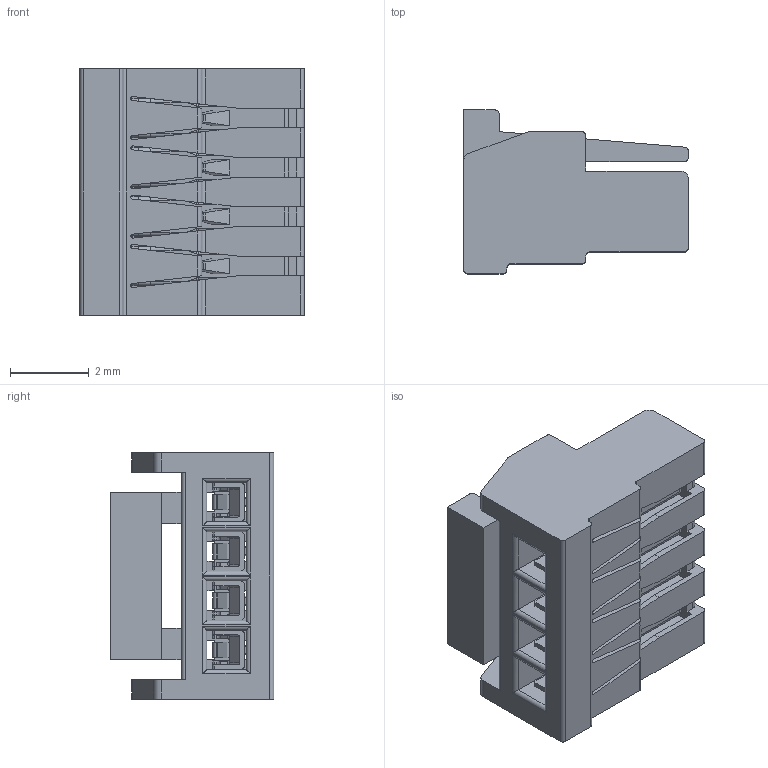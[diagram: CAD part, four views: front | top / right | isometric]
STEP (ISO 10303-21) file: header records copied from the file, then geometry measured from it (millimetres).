
FILE_DESCRIPTION(/* description */ (''),/* implementation_level */ '2;1');
FILE_NAME(/* name */ 'C:\Users\PaulT\Desktop\GrabCAD\JST-GHR-4V-S\JST-GHR-4V-S_with_terminals.stp',/* time_stamp */ '2019-01-30T14:38:20+01:00',/* author */ ('Paul THELU'),/* organization */ (''),/* preprocessor_version */ 'ST-DEVELOPER v17.2',/* originating_system */ 'Autodesk Inventor 2019',/* authorisation */ '');
FILE_SCHEMA (('AUTOMOTIVE_DESIGN { 1 0 10303 214 3 1 1 }'));
Length unit declared in the file: millimetre
Products named in the file (3): JST_GHR-4V-S_with_contact; JST_GHR-6V-S; JST_GHR-CONTACT
Assembly tree (5 placements, depth 2):
  JST_GHR-4V-S_with_contact
    JST_GHR-6V-S
    JST_GHR-CONTACT  x4
Bounding box: 5.7 x 4.15 x 6.25 mm (x, y, z)
Volume: 68.4 mm3; surface area: 376.2 mm2
Topology: 5 solids, 5 shells, 689 faces, 1891 edges, 1202 vertices
Faces by surface type: plane 347, cylinder 310, torus 16, bspline 8, sphere 8
Entity records: 11128 total; most frequent: CARTESIAN_POINT 2005, ORIENTED_EDGE 1928, DIRECTION 1886, EDGE_CURVE 964, LINE 704, VECTOR 704, VERTEX_POINT 620, AXIS2_PLACEMENT_3D 591
